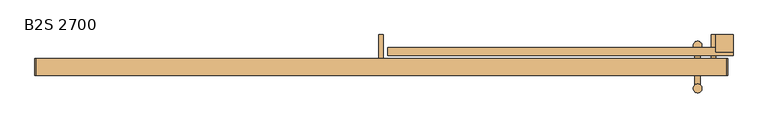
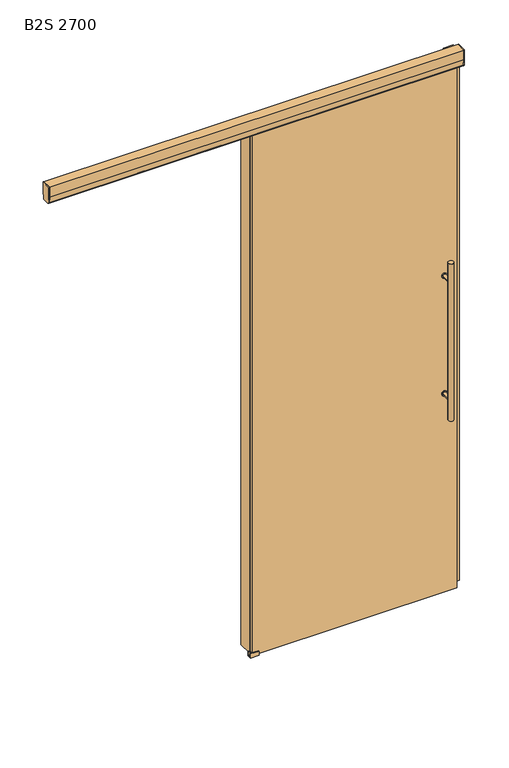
"""IFC4 building model written with IfcOpenShell, lengths in millimetres: door geometry, Mobiliário_Mobiliário de Escritório_Porta Simples de Correr - BS_Marelli : B2S 2700."""

from ifc_helpers import new_model, si_unit, point, frame, frame_2d, origin, origin_with_axes, place, context, project, spatial, polyline, circle_curve, trimmed, segment, composite_curve, outline, extrude, source, transform, mapped, element, save


def b2s_2700_7e7753ac(model_context):
    return source(origin(), model_context, "Body", "SweptSolid", [
        extrude(outline(polyline([(823.1735443, -30.5), (835.8735443, -30.5), (835.8735443, -100.0), (823.1735443, -100.0), (823.1735443, -30.5)])), origin_with_axes(), (0.0, 0.0, 1.0), 2675.0),
        extrude(outline(polyline([(1798.5735443, -30.5), (1798.5735443, -100.0), (1785.8735443, -100.0), (1785.8735443, -30.5), (1798.5735443, -30.5)])), origin_with_axes(), (0.0, 0.0, 1.0), 2675.0),
        extrude(outline(polyline([(1808.5735443, -129.0), (818.5735443, -129.0), (818.5735443, -119.0), (1808.5735443, -119.0), (1808.5735443, -129.0)])), frame((0.0, 0.0, 4.5), z_axis=(0.0, 0.0, 1.0), x_axis=(1.0, 0.0, 0.0)), (0.0, 0.0, 1.0), 2695.5),
        extrude(outline(polyline([(1848.5735443, -30.5), (1848.5735443, -80.5), (1798.5735443, -80.5), (1798.5735443, -30.5), (1848.5735443, -30.5)])), origin_with_axes(), (0.0, 0.0, 1.0), 2700.0),
        extrude(outline(polyline([(-68.3, 2700.0), (-68.3, 2675.0), (-83.8, 2675.0), (-83.8, 2684.0), (-90.3, 2684.0), (-90.3, 2700.0), (-68.3, 2700.0)])), frame((848.5735443, 0.0, 0.0), z_axis=(1.0, 0.0, 0.0), x_axis=(0.0, 1.0, 0.0)), (0.0, 0.0, 1.0), 1000.0),
        extrude(outline(composite_curve([segment(polyline([(-148.0, 2750.0099534), (-100.0, 2750.0099534), (-100.0, 2700.0099534), (-103.3526316, 2670.2787193)]), True, "CONTINUOUS"), segment(trimmed(circle_curve(frame_2d((-109.9731658, 2671.7910743)), 6.7910743), [point((-103.3526316, 2670.2787193))], [point((-109.9731658, 2665.0))], False, "CARTESIAN"), True, "CONTINUOUS"), segment(polyline([(-109.9731658, 2665.0), (-138.0268342, 2665.0)]), True, "CONTINUOUS"), segment(trimmed(circle_curve(frame_2d((-138.0268342, 2671.7910743)), 6.7910743), [point((-138.0268342, 2665.0))], [point((-144.6473684, 2670.2787193))], False, "CARTESIAN"), True, "CONTINUOUS"), segment(polyline([(-144.6473684, 2670.2787193), (-148.0, 2700.0099534), (-148.0, 2750.0099534)]), True, "CONTINUOUS")], self_intersect=False)), frame((-172.4264557, 0.0, 0.0), z_axis=(1.0, 0.0, 0.0), x_axis=(0.0, 1.0, 0.0)), (0.0, 0.0, 1.0), 3.0),
        extrude(outline(composite_curve([segment(polyline([(-148.0, 2750.0), (-100.0, 2750.0), (-100.0, 2700.0), (-103.3526316, 2670.2687659)]), True, "CONTINUOUS"), segment(trimmed(circle_curve(frame_2d((-109.9731658, 2671.781121)), 6.7910743), [point((-103.3526316, 2670.2687659))], [point((-109.9731658, 2664.9900466))], False, "CARTESIAN"), True, "CONTINUOUS"), segment(polyline([(-109.9731658, 2664.9900466), (-138.0268342, 2664.9900466)]), True, "CONTINUOUS"), segment(trimmed(circle_curve(frame_2d((-138.0268342, 2671.781121)), 6.7910743), [point((-138.0268342, 2664.9900466))], [point((-144.6473684, 2670.2687659))], False, "CARTESIAN"), True, "CONTINUOUS"), segment(polyline([(-144.6473684, 2670.2687659), (-148.0, 2700.0), (-148.0, 2750.0)]), True, "CONTINUOUS")], self_intersect=False)), frame((1830.5735443, 0.0, 0.0), z_axis=(1.0, 0.0, 0.0), x_axis=(0.0, 1.0, 0.0)), (0.0, 0.0, 1.0), 3.0),
        extrude(outline(composite_curve([segment(polyline([(-148.0, 2750.0), (-100.0, 2750.0), (-100.0, 2700.0), (-103.3526316, 2670.2687659)]), True, "CONTINUOUS"), segment(trimmed(circle_curve(frame_2d((-109.9731658, 2671.781121)), 6.7910743), [point((-103.3526316, 2670.2687659))], [point((-109.9731658, 2664.9900466))], False, "CARTESIAN"), True, "CONTINUOUS"), segment(polyline([(-109.9731658, 2664.9900466), (-119.0, 2664.9900466), (-119.0, 2668.4900466), (-109.9731658, 2668.4900466)]), True, "CONTINUOUS"), segment(trimmed(circle_curve(frame_2d((-109.9731658, 2671.781121)), 3.2910743), [point((-109.9731658, 2668.4900466))], [point((-106.8045793, 2670.8916099))], True, "CARTESIAN"), True, "CONTINUOUS"), segment(polyline([(-106.8045793, 2670.8916099), (-103.5, 2700.1967147), (-103.5, 2746.5), (-144.5, 2746.5), (-144.5, 2700.1967147), (-141.1954207, 2670.8916099)]), True, "CONTINUOUS"), segment(trimmed(circle_curve(frame_2d((-138.0268342, 2671.781121)), 3.2910743), [point((-141.1954207, 2670.8916099))], [point((-138.0268342, 2668.4900466))], True, "CARTESIAN"), True, "CONTINUOUS"), segment(polyline([(-138.0268342, 2668.4900466), (-129.0, 2668.4900466), (-129.0, 2664.9900466), (-138.0268342, 2664.9900466)]), True, "CONTINUOUS"), segment(trimmed(circle_curve(frame_2d((-138.0268342, 2671.781121)), 6.7910743), [point((-138.0268342, 2664.9900466))], [point((-144.6473684, 2670.2687659))], False, "CARTESIAN"), True, "CONTINUOUS"), segment(polyline([(-144.6473684, 2670.2687659), (-148.0, 2700.0), (-148.0, 2750.0)]), True, "CONTINUOUS")], self_intersect=False)), frame((-169.4264557, 0.0, 0.0), z_axis=(1.0, 0.0, 0.0), x_axis=(0.0, 1.0, 0.0)), (0.0, 0.0, 1.0), 2000.0),
        extrude(outline(polyline([(-113.0, 22.0), (-113.0, 0.0), (-135.0, 0.0), (-135.0, 22.0), (-130.3, 22.0), (-129.5, 19.0), (-129.5, 4.5), (-118.5, 4.5), (-118.5, 19.0), (-117.7, 22.0), (-113.0, 22.0)])), frame((808.5735443, 0.0, 0.0), z_axis=(1.0, 0.0, 0.0), x_axis=(0.0, 1.0, 0.0)), (0.0, 0.0, 1.0), 40.0),
        extrude(outline(composite_curve([segment(trimmed(circle_curve(frame_2d((1020.0, 1745.6952124)), 12.7), [point((1020.0, 1732.9952124))], [point((1020.0, 1758.3952124))], False, "CARTESIAN"), True, "CONTINUOUS"), segment(trimmed(circle_curve(frame_2d((1020.0, 1745.6952124)), 12.7), [point((1020.0, 1758.3952124))], [point((1020.0, 1732.9952124))], False, "CARTESIAN"), True, "CONTINUOUS")], self_intersect=False)), frame((0.0, -133.0, 0.0), z_axis=(0.0, 1.0, 0.0), x_axis=(0.0, 0.0, 1.0)), (0.0, 0.0, 1.0), 18.0),
        extrude(outline(composite_curve([segment(trimmed(circle_curve(frame_2d((1620.0, 1745.6952124)), 12.7), [point((1620.0, 1732.9952124))], [point((1620.0, 1758.3952124))], False, "CARTESIAN"), True, "CONTINUOUS"), segment(trimmed(circle_curve(frame_2d((1620.0, 1745.6952124)), 12.7), [point((1620.0, 1758.3952124))], [point((1620.0, 1732.9952124))], False, "CARTESIAN"), True, "CONTINUOUS")], self_intersect=False)), frame((0.0, -133.0, 0.0), z_axis=(0.0, 1.0, 0.0), x_axis=(0.0, 0.0, 1.0)), (0.0, 0.0, 1.0), 18.0),
        extrude(outline(composite_curve([segment(trimmed(circle_curve(frame_2d((1020.0, 1745.6952124)), 8.0), [point((1020.0, 1737.6952124))], [point((1020.0, 1753.6952124))], False, "CARTESIAN"), True, "CONTINUOUS"), segment(trimmed(circle_curve(frame_2d((1020.0, 1745.6952124)), 8.0), [point((1020.0, 1753.6952124))], [point((1020.0, 1737.6952124))], False, "CARTESIAN"), True, "CONTINUOUS")], self_intersect=False)), frame((0.0, -186.2, 0.0), z_axis=(0.0, 1.0, 0.0), x_axis=(0.0, 0.0, 1.0)), (0.0, 0.0, 1.0), 124.4),
        extrude(outline(composite_curve([segment(trimmed(circle_curve(frame_2d((1620.0, 1745.6952124)), 8.0), [point((1620.0, 1737.6952124))], [point((1620.0, 1753.6952124))], False, "CARTESIAN"), True, "CONTINUOUS"), segment(trimmed(circle_curve(frame_2d((1620.0, 1745.6952124)), 8.0), [point((1620.0, 1753.6952124))], [point((1620.0, 1737.6952124))], False, "CARTESIAN"), True, "CONTINUOUS")], self_intersect=False)), frame((0.0, -186.2, 0.0), z_axis=(0.0, 1.0, 0.0), x_axis=(0.0, 0.0, 1.0)), (0.0, 0.0, 1.0), 124.4),
        extrude(outline(composite_curve([segment(trimmed(circle_curve(frame_2d((1745.6952124, -61.8)), 12.7), [point((1758.3952124, -61.8))], [point((1732.9952124, -61.8))], False, "CARTESIAN"), True, "CONTINUOUS"), segment(trimmed(circle_curve(frame_2d((1745.6952124, -61.8)), 12.7), [point((1732.9952124, -61.8))], [point((1758.3952124, -61.8))], False, "CARTESIAN"), True, "CONTINUOUS")], self_intersect=False)), frame((0.0, 0.0, 920.0), z_axis=(0.0, 0.0, 1.0), x_axis=(1.0, 0.0, 0.0)), (0.0, 0.0, 1.0), 800.0),
        extrude(outline(composite_curve([segment(trimmed(circle_curve(frame_2d((1745.6952124, -186.2)), 12.7), [point((1758.3952124, -186.2))], [point((1732.9952124, -186.2))], False, "CARTESIAN"), True, "CONTINUOUS"), segment(trimmed(circle_curve(frame_2d((1745.6952124, -186.2)), 12.7), [point((1732.9952124, -186.2))], [point((1758.3952124, -186.2))], False, "CARTESIAN"), True, "CONTINUOUS")], self_intersect=False)), frame((0.0, 0.0, 920.0), z_axis=(0.0, 0.0, 1.0), x_axis=(1.0, 0.0, 0.0)), (0.0, 0.0, 1.0), 800.0),
    ])


if __name__ == "__main__":
    model = new_model("IFC4")
    model_context = context("Model", 3, world=origin())
    ifc_project = project(units=[si_unit("LENGTHUNIT", "METRE", prefix="MILLI")], contexts=[model_context])
    site = spatial("IfcSite", under=ifc_project)
    building = spatial("IfcBuilding", under=site)
    placement = place(None, origin())
    b2s_2700_shape = b2s_2700_7e7753ac(model_context)
    element("IfcDoor", 1, ObjectType="Mobiliário_Mobiliário de Escritório_Porta Simples de Correr - BS_Marelli : B2S 2700", at=placement, inside=building, context=model_context, shape_type="MappedRepresentation", body=[
        mapped(b2s_2700_shape, transform((0.0, 0.0, 0.0), x_axis=(1.0, 0.0, 0.0), y_axis=(0.0, 1.0, 0.0), z_axis=(0.0, 0.0, 1.0))),
    ])
    save(model, "model.ifc")
